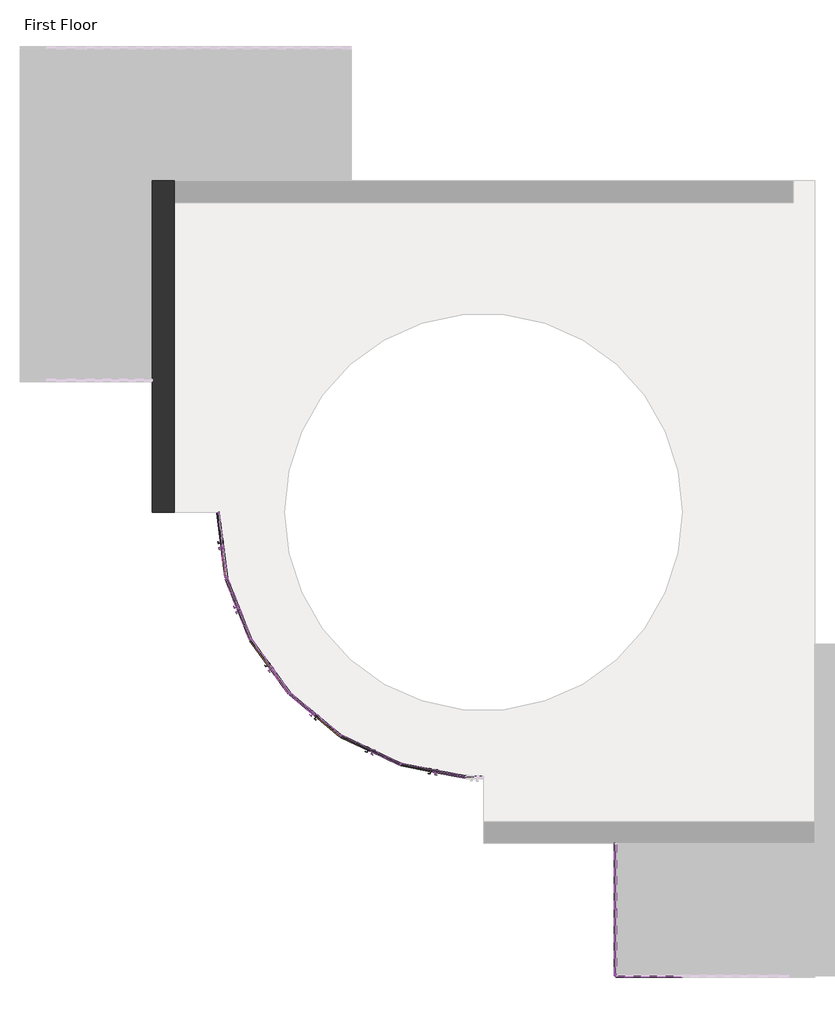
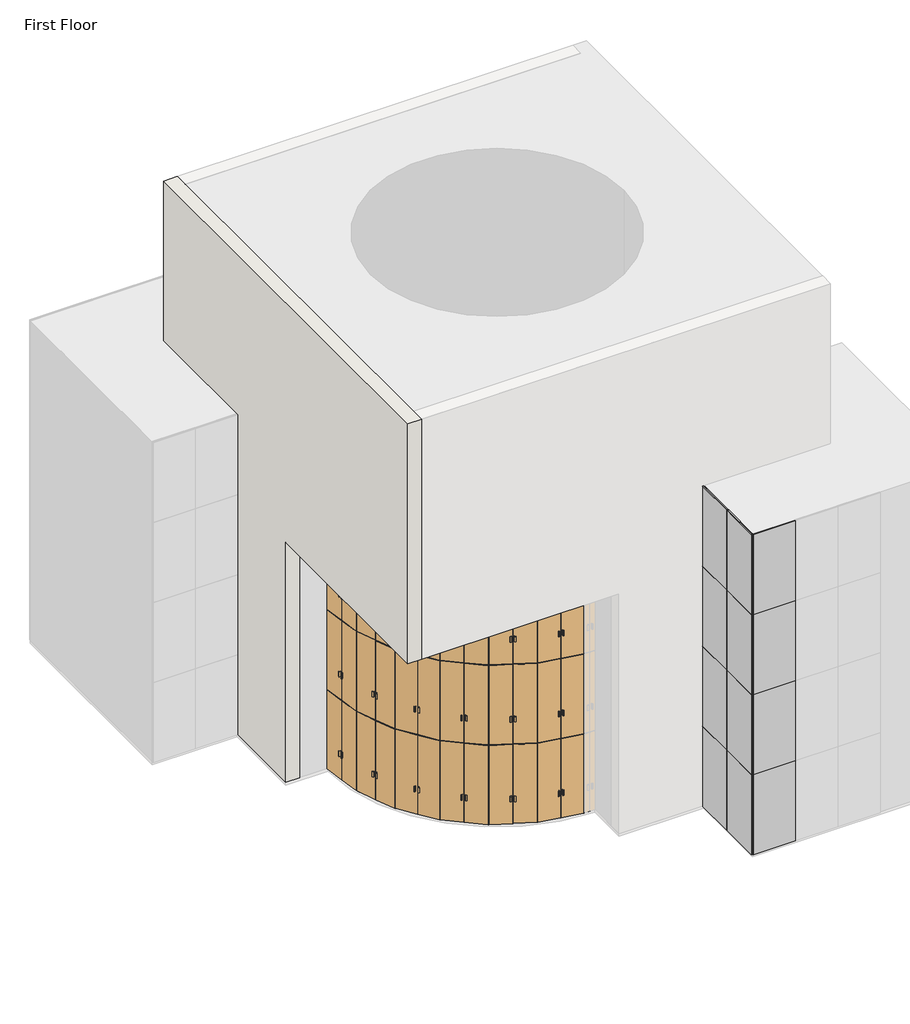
# One storey, part 1 of 4: 68 members, 18 doors, 12 plates, 1 wall.
"""IFC4 building model written with IfcOpenShell, lengths in millimetres."""

from ifc_helpers import new_model, si_unit, origin, place, context, project, spatial, faceted_brep, transform, mapped, element, save
from components import door_curtain_wall_double_glass_door_curtain_wall_double_63a57486, door_curtain_wall_double_glass_door_curtain_wall_double_2d87b983, door_curtain_wall_double_glass_door_curtain_wall_double_8d860489, door_curtain_wall_double_glass_door_curtain_wall_double_2de360d5, member_c999597c, member_cbdb9076, member_6d3da757, member_648f3f05, member_113f7001, member_bc106393, member_7fb477b2, member_7e523723, member_e16e0e7d, member_15743826, member_c4f80b05, system_panel_glazed_c0c5e10a

model = new_model("IFC4")

# Units and contexts
model_context = context("Model", 3, world=origin())
ifc_project = project(units=[si_unit("LENGTHUNIT", "METRE", prefix="MILLI")], contexts=[model_context])

# Site, building, storey
site = spatial("IfcSite", under=ifc_project)
building = spatial("IfcBuilding", under=site)
storey = spatial("IfcBuildingStorey", under=building, Name="First Floor", Elevation=0.0)

# Doors
placement = place(None, origin())
door_curtain_wall_double_glass_door_curtain_wall_double_shape = door_curtain_wall_double_glass_door_curtain_wall_double_63a57486(model_context)
element("IfcDoor", 1, ObjectType="Door-Curtain-Wall-Double-Glass : Door-Curtain-Wall-Double-Glass", at=placement, inside=storey, context=model_context, shape_type="MappedRepresentation", body=[
    mapped(door_curtain_wall_double_glass_door_curtain_wall_double_shape, transform((-5754.6419973, -804.9455849, 25.4), x_axis=(0.1250000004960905, -0.9921567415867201, 0.0), y_axis=(0.9921567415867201, 0.1250000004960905, 0.0), z_axis=(0.0, 0.0, 1.0))),
])
element("IfcDoor", 2, ObjectType="Door-Curtain-Wall-Double-Glass : Door-Curtain-Wall-Double-Glass", at=placement, inside=storey, context=model_context, shape_type="MappedRepresentation", body=[
    mapped(door_curtain_wall_double_glass_door_curtain_wall_double_shape, transform((-5754.6419973, -804.9455849, 6108.7), x_axis=(0.12500000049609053, -0.9921567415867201, 0.0), y_axis=(0.9921567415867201, 0.12500000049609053, 0.0), z_axis=(0.0, 0.0, 1.0))),
])
door_curtain_wall_double_glass_door_curtain_wall_double_2_shape = door_curtain_wall_double_glass_door_curtain_wall_double_2d87b983(model_context)
element("IfcDoor", 3, ObjectType="Door-Curtain-Wall-Double-Glass : Door-Curtain-Wall-Double-Glass", at=placement, inside=storey, context=model_context, shape_type="MappedRepresentation", body=[
    mapped(door_curtain_wall_double_glass_door_curtain_wall_double_2_shape, transform((-5380.3888708, -2263.4408017, 25.4), x_axis=(0.36718750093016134, -0.930146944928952, 0.0), y_axis=(0.930146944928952, 0.36718750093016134, 0.0), z_axis=(0.0, 0.0, 1.0))),
])
element("IfcDoor", 4, ObjectType="Door-Curtain-Wall-Double-Glass : Door-Curtain-Wall-Double-Glass", at=placement, inside=storey, context=model_context, shape_type="MappedRepresentation", body=[
    mapped(door_curtain_wall_double_glass_door_curtain_wall_double_2_shape, transform((-4653.7355492, -3589.4350326, 25.4), x_axis=(0.5864257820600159, -0.8100029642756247, 0.0), y_axis=(0.8100029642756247, 0.5864257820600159, 0.0), z_axis=(0.0, 0.0, 1.0))),
])
element("IfcDoor", 5, ObjectType="Door-Curtain-Wall-Double-Glass : Door-Curtain-Wall-Double-Glass", at=placement, inside=storey, context=model_context, shape_type="MappedRepresentation", body=[
    mapped(door_curtain_wall_double_glass_door_curtain_wall_double_2_shape, transform((-3620.891615, -4693.7534457, 25.4), x_axis=(0.7690124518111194, -0.6392337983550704, 0.0), y_axis=(0.6392337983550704, 0.7690124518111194, 0.0), z_axis=(0.0, 0.0, 1.0))),
])
element("IfcDoor", 6, ObjectType="Door-Curtain-Wall-Double-Glass : Door-Curtain-Wall-Double-Glass", at=placement, inside=storey, context=model_context, shape_type="MappedRepresentation", body=[
    mapped(door_curtain_wall_double_glass_door_curtain_wall_double_2_shape, transform((-2346.4098141, -5507.3761403, 25.4), x_axis=(0.9035358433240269, -0.4285125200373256, 0.0), y_axis=(0.4285125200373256, 0.9035358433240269, 0.0), z_axis=(0.0, 0.0, 1.0))),
])
element("IfcDoor", 7, ObjectType="Door-Curtain-Wall-Double-Glass : Door-Curtain-Wall-Double-Glass", at=placement, inside=storey, context=model_context, shape_type="MappedRepresentation", body=[
    mapped(door_curtain_wall_double_glass_door_curtain_wall_double_2_shape, transform((-909.945259, -5979.451698, 25.4), x_axis=(0.9815882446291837, -0.19100920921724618, 0.0), y_axis=(0.19100920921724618, 0.9815882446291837, 0.0), z_axis=(0.0, 0.0, 1.0))),
])
element("IfcDoor", 8, ObjectType="Door-Curtain-Wall-Double-Glass : Door-Curtain-Wall-Double-Glass", at=placement, inside=storey, context=model_context, shape_type="MappedRepresentation", body=[
    mapped(door_curtain_wall_double_glass_door_curtain_wall_double_2_shape, transform((-5380.3888708, -2263.4408017, 6108.7), x_axis=(0.3671875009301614, -0.930146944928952, 0.0), y_axis=(0.930146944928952, 0.3671875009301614, 0.0), z_axis=(0.0, 0.0, 1.0))),
])
element("IfcDoor", 9, ObjectType="Door-Curtain-Wall-Double-Glass : Door-Curtain-Wall-Double-Glass", at=placement, inside=storey, context=model_context, shape_type="MappedRepresentation", body=[
    mapped(door_curtain_wall_double_glass_door_curtain_wall_double_2_shape, transform((-4653.7355492, -3589.4350326, 6108.7), x_axis=(0.5864257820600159, -0.8100029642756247, 0.0), y_axis=(0.8100029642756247, 0.5864257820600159, 0.0), z_axis=(0.0, 0.0, 1.0))),
])
element("IfcDoor", 10, ObjectType="Door-Curtain-Wall-Double-Glass : Door-Curtain-Wall-Double-Glass", at=placement, inside=storey, context=model_context, shape_type="MappedRepresentation", body=[
    mapped(door_curtain_wall_double_glass_door_curtain_wall_double_2_shape, transform((-3620.891615, -4693.7534457, 6108.7), x_axis=(0.7690124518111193, -0.6392337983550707, 0.0), y_axis=(0.6392337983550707, 0.7690124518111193, 0.0), z_axis=(0.0, 0.0, 1.0))),
])
element("IfcDoor", 11, ObjectType="Door-Curtain-Wall-Double-Glass : Door-Curtain-Wall-Double-Glass", at=placement, inside=storey, context=model_context, shape_type="MappedRepresentation", body=[
    mapped(door_curtain_wall_double_glass_door_curtain_wall_double_2_shape, transform((-2346.4098141, -5507.3761403, 6108.7), x_axis=(0.903535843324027, -0.4285125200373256, 0.0), y_axis=(0.4285125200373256, 0.903535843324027, 0.0), z_axis=(0.0, 0.0, 1.0))),
])
element("IfcDoor", 12, ObjectType="Door-Curtain-Wall-Double-Glass : Door-Curtain-Wall-Double-Glass", at=placement, inside=storey, context=model_context, shape_type="MappedRepresentation", body=[
    mapped(door_curtain_wall_double_glass_door_curtain_wall_double_2_shape, transform((-909.945259, -5979.451698, 6108.7), x_axis=(0.9815882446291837, -0.19100920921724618, 0.0), y_axis=(0.19100920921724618, 0.9815882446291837, 0.0), z_axis=(0.0, 0.0, 1.0))),
])
door_curtain_wall_double_glass_door_curtain_wall_double_3_shape = door_curtain_wall_double_glass_door_curtain_wall_double_8d860489(model_context)
element("IfcDoor", 13, ObjectType="Door-Curtain-Wall-Double-Glass : Door-Curtain-Wall-Double-Glass", at=placement, inside=storey, context=model_context, shape_type="MappedRepresentation", body=[
    mapped(door_curtain_wall_double_glass_door_curtain_wall_double_3_shape, transform((-5754.6419973, -804.9455849, 3060.7), x_axis=(0.1250000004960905, -0.9921567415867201, 0.0), y_axis=(0.9921567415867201, 0.1250000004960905, 0.0), z_axis=(0.0, 0.0, 1.0))),
])
door_curtain_wall_double_glass_door_curtain_wall_double_4_shape = door_curtain_wall_double_glass_door_curtain_wall_double_2de360d5(model_context)
element("IfcDoor", 14, ObjectType="Door-Curtain-Wall-Double-Glass : Door-Curtain-Wall-Double-Glass", at=placement, inside=storey, context=model_context, shape_type="MappedRepresentation", body=[
    mapped(door_curtain_wall_double_glass_door_curtain_wall_double_4_shape, transform((-5380.3888708, -2263.4408017, 3060.7), x_axis=(0.3671875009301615, -0.9301469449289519, 0.0), y_axis=(0.9301469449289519, 0.3671875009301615, 0.0), z_axis=(0.0, 0.0, 1.0))),
])
element("IfcDoor", 15, ObjectType="Door-Curtain-Wall-Double-Glass : Door-Curtain-Wall-Double-Glass", at=placement, inside=storey, context=model_context, shape_type="MappedRepresentation", body=[
    mapped(door_curtain_wall_double_glass_door_curtain_wall_double_4_shape, transform((-4653.7355492, -3589.4350326, 3060.7), x_axis=(0.5864257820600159, -0.8100029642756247, 0.0), y_axis=(0.8100029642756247, 0.5864257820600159, 0.0), z_axis=(0.0, 0.0, 1.0))),
])
element("IfcDoor", 16, ObjectType="Door-Curtain-Wall-Double-Glass : Door-Curtain-Wall-Double-Glass", at=placement, inside=storey, context=model_context, shape_type="MappedRepresentation", body=[
    mapped(door_curtain_wall_double_glass_door_curtain_wall_double_4_shape, transform((-3620.891615, -4693.7534457, 3060.7), x_axis=(0.7690124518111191, -0.6392337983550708, 0.0), y_axis=(0.6392337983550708, 0.7690124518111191, 0.0), z_axis=(0.0, 0.0, 1.0))),
])
element("IfcDoor", 17, ObjectType="Door-Curtain-Wall-Double-Glass : Door-Curtain-Wall-Double-Glass", at=placement, inside=storey, context=model_context, shape_type="MappedRepresentation", body=[
    mapped(door_curtain_wall_double_glass_door_curtain_wall_double_4_shape, transform((-2346.4098141, -5507.3761403, 3060.7), x_axis=(0.9035358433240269, -0.4285125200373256, 0.0), y_axis=(0.4285125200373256, 0.9035358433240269, 0.0), z_axis=(0.0, 0.0, 1.0))),
])
element("IfcDoor", 18, ObjectType="Door-Curtain-Wall-Double-Glass : Door-Curtain-Wall-Double-Glass", at=placement, inside=storey, context=model_context, shape_type="MappedRepresentation", body=[
    mapped(door_curtain_wall_double_glass_door_curtain_wall_double_4_shape, transform((-909.945259, -5979.451698, 3060.7), x_axis=(0.9815882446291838, -0.19100920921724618, 0.0), y_axis=(0.19100920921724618, 0.9815882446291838, 0.0), z_axis=(0.0, 0.0, 1.0))),
])

# Members
member_shape = member_c999597c(model_context)
element("IfcMember", 19, ObjectType="Rectangular Mullion : 1\" Square", at=placement, inside=storey, context=model_context, shape_type="MappedRepresentation", body=[
    mapped(member_shape, transform((-5847.510748, -67.8227308, 0.0), x_axis=(0.0, 0.0, -1.0), y_axis=(-0.99215674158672, -0.1250000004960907, 0.0), z_axis=(-0.12500000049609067, 0.9921567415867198, 0.0))),
])
member_2_shape = member_cbdb9076(model_context)
element("IfcMember", 20, ObjectType="Rectangular Mullion : 1\" Square", at=placement, inside=storey, context=model_context, shape_type="MappedRepresentation", body=[
    mapped(member_2_shape, transform((-5660.1857465, -1554.6688297, 0.0), x_axis=(0.2480391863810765, -0.9687499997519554, 0.0), y_axis=(-0.9687499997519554, -0.2480391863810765, 0.0), z_axis=(0.0, 0.0, -1.0))),
])
element("IfcMember", 21, ObjectType="Rectangular Mullion : 1\" Square", at=placement, inside=storey, context=model_context, shape_type="MappedRepresentation", body=[
    mapped(member_2_shape, transform((-5100.5919951, -2972.2127738, 0.0), x_axis=(0.4805759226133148, -0.8769531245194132, 0.0), y_axis=(-0.8769531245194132, -0.4805759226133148, 0.0), z_axis=(0.0, 0.0, -1.0))),
])
element("IfcMember", 22, ObjectType="Rectangular Mullion : 1\" Square", at=placement, inside=storey, context=model_context, shape_type="MappedRepresentation", body=[
    mapped(member_2_shape, transform((-4206.8791032, -4206.6572913, 0.0), x_axis=(0.6830766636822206, -0.7303466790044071, 0.0), y_axis=(-0.7303466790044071, -0.6830766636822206, 0.0), z_axis=(0.0, 0.0, -1.0))),
])
element("IfcMember", 23, ObjectType="Rectangular Mullion : 1\" Square", at=placement, inside=storey, context=model_context, shape_type="MappedRepresentation", body=[
    mapped(member_2_shape, transform((-3034.9041267, -5180.8496, 0.0), x_axis=(0.8428851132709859, -0.5380935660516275, 0.0), y_axis=(-0.5380935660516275, -0.8428851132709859, 0.0), z_axis=(0.0, 0.0, -1.0))),
])
element("IfcMember", 24, ObjectType="Rectangular Mullion : 1\" Square", at=placement, inside=storey, context=model_context, shape_type="MappedRepresentation", body=[
    mapped(member_2_shape, transform((-1657.9155014, -5833.9026806, 0.0), x_axis=(0.9500132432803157, -0.31220960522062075, 0.0), y_axis=(-0.31220960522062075, -0.9500132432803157, 0.0), z_axis=(0.0, 0.0, -1.0))),
])
element("IfcMember", 25, ObjectType="Rectangular Mullion : 1\" Square", at=placement, inside=storey, context=model_context, shape_type="MappedRepresentation", body=[
    mapped(member_2_shape, transform((-161.9750166, -6125.0007154, 0.0), x_axis=(0.9977655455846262, -0.06681254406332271, 0.0), y_axis=(-0.06681254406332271, -0.9977655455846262, 0.0), z_axis=(0.0, 0.0, -1.0))),
])
element("IfcMember", 26, ObjectType="Rectangular Mullion : 1\" Square", at=placement, inside=storey, context=model_context, shape_type="MappedRepresentation", body=[
    mapped(member_2_shape, transform((3293.314252, -9186.6219498, 0.0), x_axis=(0.0, -1.0, 0.0), y_axis=(-1.0, 0.0, 0.0), z_axis=(0.0, 0.0, -1.0))),
])
member_3_shape = member_6d3da757(model_context)
element("IfcMember", 27, ObjectType="Rectangular Mullion : 1\" Square", at=placement, inside=storey, context=model_context, shape_type="MappedRepresentation", body=[
    mapped(member_3_shape, transform((-5661.7732465, -1542.0684391, 3048.0), x_axis=(0.0, 0.0, 1.0), y_axis=(-0.9921567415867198, -0.125000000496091, 0.0), z_axis=(0.125000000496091, -0.9921567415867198, 0.0))),
])
element("IfcMember", 28, ObjectType="Rectangular Mullion : 1\" Square", at=placement, inside=storey, context=model_context, shape_type="MappedRepresentation", body=[
    mapped(member_3_shape, transform((-5661.7732465, -1542.0684391, 6096.0), x_axis=(0.0, 0.0, 1.0), y_axis=(-0.99215674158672, -0.1250000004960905, 0.0), z_axis=(0.1250000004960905, -0.99215674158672, 0.0))),
])
member_4_shape = member_648f3f05(model_context)
element("IfcMember", 29, ObjectType="Rectangular Mullion : 1\" Square", at=placement, inside=storey, context=model_context, shape_type="MappedRepresentation", body=[
    mapped(member_4_shape, transform((-5105.2552764, -2960.3999076, 3048.0), x_axis=(0.0, 0.0, 1.0), y_axis=(-0.9301469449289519, -0.36718750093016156, 0.0), z_axis=(0.36718750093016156, -0.9301469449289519, 0.0))),
])
element("IfcMember", 30, ObjectType="Rectangular Mullion : 1\" Square", at=placement, inside=storey, context=model_context, shape_type="MappedRepresentation", body=[
    mapped(member_4_shape, transform((-4214.3267107, -4196.3702537, 3048.0), x_axis=(0.0, 0.0, 1.0), y_axis=(-0.8100029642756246, -0.586425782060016, 0.0), z_axis=(0.586425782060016, -0.8100029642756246, 0.0))),
])
element("IfcMember", 31, ObjectType="Rectangular Mullion : 1\" Square", at=placement, inside=storey, context=model_context, shape_type="MappedRepresentation", body=[
    mapped(member_4_shape, transform((-3044.6705848, -5172.7313308, 3048.0), x_axis=(0.0, 0.0, 1.0), y_axis=(-0.6392337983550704, -0.7690124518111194, 0.0), z_axis=(0.7690124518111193, -0.6392337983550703, 0.0))),
])
element("IfcMember", 32, ObjectType="Rectangular Mullion : 1\" Square", at=placement, inside=storey, context=model_context, shape_type="MappedRepresentation", body=[
    mapped(member_4_shape, transform((-1669.3904067, -5828.4605716, 3048.0), x_axis=(0.0, 0.0, 1.0), y_axis=(-0.4285125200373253, -0.9035358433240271, 0.0), z_axis=(0.9035358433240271, -0.4285125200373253, 0.0))),
])
element("IfcMember", 33, ObjectType="Rectangular Mullion : 1\" Square", at=placement, inside=storey, context=model_context, shape_type="MappedRepresentation", body=[
    mapped(member_4_shape, transform((-174.4411873, -6122.5748985, 3048.0), x_axis=(0.0, 0.0, 1.0), y_axis=(-0.1910092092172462, -0.9815882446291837, 0.0), z_axis=(0.9815882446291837, -0.1910092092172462, 0.0))),
])
element("IfcMember", 34, ObjectType="Rectangular Mullion : 1\" Square", at=placement, inside=storey, context=model_context, shape_type="MappedRepresentation", body=[
    mapped(member_4_shape, transform((-5105.2552764, -2960.3999076, 6096.0), x_axis=(0.0, 0.0, 1.0), y_axis=(-0.9301469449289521, -0.36718750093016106, 0.0), z_axis=(0.36718750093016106, -0.9301469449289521, 0.0))),
])
element("IfcMember", 35, ObjectType="Rectangular Mullion : 1\" Square", at=placement, inside=storey, context=model_context, shape_type="MappedRepresentation", body=[
    mapped(member_4_shape, transform((-4214.3267107, -4196.3702537, 6096.0), x_axis=(0.0, 0.0, 1.0), y_axis=(-0.8100029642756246, -0.586425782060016, 0.0), z_axis=(0.586425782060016, -0.8100029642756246, 0.0))),
])
element("IfcMember", 36, ObjectType="Rectangular Mullion : 1\" Square", at=placement, inside=storey, context=model_context, shape_type="MappedRepresentation", body=[
    mapped(member_4_shape, transform((-3044.6705848, -5172.7313308, 6096.0), x_axis=(0.0, 0.0, 1.0), y_axis=(-0.639233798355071, -0.769012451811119, 0.0), z_axis=(0.7690124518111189, -0.6392337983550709, 0.0))),
])
element("IfcMember", 37, ObjectType="Rectangular Mullion : 1\" Square", at=placement, inside=storey, context=model_context, shape_type="MappedRepresentation", body=[
    mapped(member_4_shape, transform((-1669.3904067, -5828.4605716, 6096.0), x_axis=(0.0, 0.0, 1.0), y_axis=(-0.4285125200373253, -0.9035358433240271, 0.0), z_axis=(0.9035358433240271, -0.4285125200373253, 0.0))),
])
element("IfcMember", 38, ObjectType="Rectangular Mullion : 1\" Square", at=placement, inside=storey, context=model_context, shape_type="MappedRepresentation", body=[
    mapped(member_4_shape, transform((-174.4411873, -6122.5748985, 6096.0), x_axis=(0.0, 0.0, 1.0), y_axis=(-0.19100920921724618, -0.9815882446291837, 0.0), z_axis=(0.9815882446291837, -0.19100920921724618, 0.0))),
])
member_5_shape = member_113f7001(model_context)
element("IfcMember", 39, ObjectType="Rectangular Mullion : 1\" Square", at=placement, inside=storey, context=model_context, shape_type="MappedRepresentation", body=[
    mapped(member_5_shape, transform((-5655.5224652, -1566.4816959, 0.0), x_axis=(0.0, 0.0, -1.0), y_axis=(-0.930146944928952, -0.3671875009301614, 0.0), z_axis=(-0.3671875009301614, 0.930146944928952, 0.0))),
])
element("IfcMember", 40, ObjectType="Rectangular Mullion : 1\" Square", at=placement, inside=storey, context=model_context, shape_type="MappedRepresentation", body=[
    mapped(member_5_shape, transform((-5093.1443877, -2982.4998114, 0.0), x_axis=(0.0, 0.0, -1.0), y_axis=(-0.8100029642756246, -0.5864257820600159, 0.0), z_axis=(-0.5864257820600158, 0.8100029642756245, 0.0))),
])
element("IfcMember", 41, ObjectType="Rectangular Mullion : 1\" Square", at=placement, inside=storey, context=model_context, shape_type="MappedRepresentation", body=[
    mapped(member_5_shape, transform((-4197.1126451, -4214.7755606, 0.0), x_axis=(0.0, 0.0, -1.0), y_axis=(-0.6392337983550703, -0.7690124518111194, 0.0), z_axis=(-0.7690124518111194, 0.6392337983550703, 0.0))),
])
element("IfcMember", 42, ObjectType="Rectangular Mullion : 1\" Square", at=placement, inside=storey, context=model_context, shape_type="MappedRepresentation", body=[
    mapped(member_5_shape, transform((-3023.4292215, -5186.291709, 0.0), x_axis=(0.0, 0.0, -1.0), y_axis=(-0.42851252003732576, -0.9035358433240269, 0.0), z_axis=(-0.9035358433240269, 0.42851252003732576, 0.0))),
])
element("IfcMember", 43, ObjectType="Rectangular Mullion : 1\" Square", at=placement, inside=storey, context=model_context, shape_type="MappedRepresentation", body=[
    mapped(member_5_shape, transform((-1645.4493307, -5836.3284975, 0.0), x_axis=(0.0, 0.0, -1.0), y_axis=(-0.1910092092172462, -0.9815882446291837, 0.0), z_axis=(-0.9815882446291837, 0.1910092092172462, 0.0))),
])
member_6_shape = member_bc106393(model_context)
element("IfcMember", 44, ObjectType="Rectangular Mullion : 1\" Square", at=placement, inside=storey, context=model_context, shape_type="MappedRepresentation", body=[
    mapped(member_6_shape, transform((-149.282113, -6125.4252123, 0.0), x_axis=(0.0, 0.0, -1.0), y_axis=(-0.03342494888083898, -0.9994412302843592, 0.0), z_axis=(-0.999441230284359, 0.033424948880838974, 0.0))),
])
member_7_shape = member_7fb477b2(model_context)
element("IfcMember", 45, ObjectType="Rectangular Mullion : 1\" Square", at=placement, inside=storey, context=model_context, shape_type="MappedRepresentation", body=[
    mapped(member_7_shape, transform((-5661.7732465, -1542.0684391, 9144.0), x_axis=(0.0, 0.0, 1.0), y_axis=(-0.9921567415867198, -0.125000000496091, 0.0), z_axis=(0.125000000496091, -0.9921567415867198, 0.0))),
])
element("IfcMember", 46, ObjectType="Rectangular Mullion : 1\" Square", at=placement, inside=storey, context=model_context, shape_type="MappedRepresentation", body=[
    mapped(member_5_shape, transform((-5105.2552764, -2960.3999076, 9144.0), x_axis=(0.0, 0.0, 1.0), y_axis=(-0.930146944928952, -0.3671875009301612, 0.0), z_axis=(0.3671875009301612, -0.930146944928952, 0.0))),
])
element("IfcMember", 47, ObjectType="Rectangular Mullion : 1\" Square", at=placement, inside=storey, context=model_context, shape_type="MappedRepresentation", body=[
    mapped(member_5_shape, transform((-4214.3267107, -4196.3702537, 9144.0), x_axis=(0.0, 0.0, 1.0), y_axis=(-0.8100029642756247, -0.5864257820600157, 0.0), z_axis=(0.5864257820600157, -0.8100029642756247, 0.0))),
])
element("IfcMember", 48, ObjectType="Rectangular Mullion : 1\" Square", at=placement, inside=storey, context=model_context, shape_type="MappedRepresentation", body=[
    mapped(member_5_shape, transform((-3044.6705848, -5172.7313308, 9144.0), x_axis=(0.0, 0.0, 1.0), y_axis=(-0.6392337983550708, -0.7690124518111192, 0.0), z_axis=(0.7690124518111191, -0.6392337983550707, 0.0))),
])
element("IfcMember", 49, ObjectType="Rectangular Mullion : 1\" Square", at=placement, inside=storey, context=model_context, shape_type="MappedRepresentation", body=[
    mapped(member_5_shape, transform((-1669.3904067, -5828.4605716, 9144.0), x_axis=(0.0, 0.0, 1.0), y_axis=(-0.4285125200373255, -0.903535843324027, 0.0), z_axis=(0.903535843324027, -0.4285125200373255, 0.0))),
])
element("IfcMember", 50, ObjectType="Rectangular Mullion : 1\" Square", at=placement, inside=storey, context=model_context, shape_type="MappedRepresentation", body=[
    mapped(member_5_shape, transform((-174.4411873, -6122.5748985, 9144.0), x_axis=(0.0, 0.0, 1.0), y_axis=(-0.19100920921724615, -0.9815882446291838, 0.0), z_axis=(0.9815882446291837, -0.19100920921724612, 0.0))),
])
element("IfcMember", 51, ObjectType="Rectangular Mullion : 1\" Square", at=placement, inside=storey, context=model_context, shape_type="MappedRepresentation", body=[
    mapped(member_2_shape, transform((-5660.1857465, -1554.6688297, 3048.0), x_axis=(0.24803918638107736, -0.9687499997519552, 0.0), y_axis=(-0.9687499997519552, -0.24803918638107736, 0.0), z_axis=(0.0, 0.0, -1.0))),
])
element("IfcMember", 52, ObjectType="Rectangular Mullion : 1\" Square", at=placement, inside=storey, context=model_context, shape_type="MappedRepresentation", body=[
    mapped(member_2_shape, transform((-5100.5919951, -2972.2127738, 3048.0), x_axis=(0.4805759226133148, -0.8769531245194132, 0.0), y_axis=(-0.8769531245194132, -0.4805759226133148, 0.0), z_axis=(0.0, 0.0, -1.0))),
])
element("IfcMember", 53, ObjectType="Rectangular Mullion : 1\" Square", at=placement, inside=storey, context=model_context, shape_type="MappedRepresentation", body=[
    mapped(member_2_shape, transform((-4206.8791032, -4206.6572913, 3048.0), x_axis=(0.6830766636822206, -0.7303466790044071, 0.0), y_axis=(-0.7303466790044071, -0.6830766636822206, 0.0), z_axis=(0.0, 0.0, -1.0))),
])
element("IfcMember", 54, ObjectType="Rectangular Mullion : 1\" Square", at=placement, inside=storey, context=model_context, shape_type="MappedRepresentation", body=[
    mapped(member_2_shape, transform((-3034.9041267, -5180.8496, 3048.0), x_axis=(0.8428851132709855, -0.5380935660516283, 0.0), y_axis=(-0.5380935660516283, -0.8428851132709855, 0.0), z_axis=(0.0, 0.0, -1.0))),
])
element("IfcMember", 55, ObjectType="Rectangular Mullion : 1\" Square", at=placement, inside=storey, context=model_context, shape_type="MappedRepresentation", body=[
    mapped(member_2_shape, transform((-1657.9155014, -5833.9026806, 3048.0), x_axis=(0.9500132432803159, -0.3122096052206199, 0.0), y_axis=(-0.3122096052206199, -0.9500132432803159, 0.0), z_axis=(0.0, 0.0, -1.0))),
])
element("IfcMember", 56, ObjectType="Rectangular Mullion : 1\" Square", at=placement, inside=storey, context=model_context, shape_type="MappedRepresentation", body=[
    mapped(member_2_shape, transform((-161.9750166, -6125.0007154, 3048.0), x_axis=(0.9977655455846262, -0.06681254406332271, 0.0), y_axis=(-0.06681254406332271, -0.9977655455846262, 0.0), z_axis=(0.0, 0.0, -1.0))),
])
element("IfcMember", 57, ObjectType="Rectangular Mullion : 1\" Square", at=placement, inside=storey, context=model_context, shape_type="MappedRepresentation", body=[
    mapped(member_2_shape, transform((3293.314252, -9186.6219498, 3048.0), x_axis=(0.0, -1.0, 0.0), y_axis=(-1.0, 0.0, 0.0), z_axis=(0.0, 0.0, -1.0))),
])
element("IfcMember", 58, ObjectType="Rectangular Mullion : 1\" Square", at=placement, inside=storey, context=model_context, shape_type="MappedRepresentation", body=[
    mapped(member_2_shape, transform((3293.314252, -9186.6219498, 6096.0), x_axis=(0.0, -1.0, 0.0), y_axis=(-1.0, 0.0, 0.0), z_axis=(0.0, 0.0, -1.0))),
])
element("IfcMember", 59, ObjectType="Rectangular Mullion : 1\" Square", at=placement, inside=storey, context=model_context, shape_type="MappedRepresentation", body=[
    mapped(member_2_shape, transform((-5660.1857465, -1554.6688297, 6096.0), x_axis=(0.24803918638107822, -0.968749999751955, 0.0), y_axis=(-0.968749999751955, -0.24803918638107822, 0.0), z_axis=(0.0, 0.0, -1.0))),
])
element("IfcMember", 60, ObjectType="Rectangular Mullion : 1\" Square", at=placement, inside=storey, context=model_context, shape_type="MappedRepresentation", body=[
    mapped(member_2_shape, transform((-5100.5919951, -2972.2127738, 6096.0), x_axis=(0.480575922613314, -0.8769531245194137, 0.0), y_axis=(-0.8769531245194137, -0.480575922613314, 0.0), z_axis=(0.0, 0.0, -1.0))),
])
element("IfcMember", 61, ObjectType="Rectangular Mullion : 1\" Square", at=placement, inside=storey, context=model_context, shape_type="MappedRepresentation", body=[
    mapped(member_2_shape, transform((-4206.8791032, -4206.6572913, 6096.0), x_axis=(0.6830766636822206, -0.7303466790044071, 0.0), y_axis=(-0.7303466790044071, -0.6830766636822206, 0.0), z_axis=(0.0, 0.0, -1.0))),
])
element("IfcMember", 62, ObjectType="Rectangular Mullion : 1\" Square", at=placement, inside=storey, context=model_context, shape_type="MappedRepresentation", body=[
    mapped(member_2_shape, transform((-3034.9041267, -5180.8496, 6096.0), x_axis=(0.8428851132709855, -0.5380935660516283, 0.0), y_axis=(-0.5380935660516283, -0.8428851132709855, 0.0), z_axis=(0.0, 0.0, -1.0))),
])
element("IfcMember", 63, ObjectType="Rectangular Mullion : 1\" Square", at=placement, inside=storey, context=model_context, shape_type="MappedRepresentation", body=[
    mapped(member_2_shape, transform((-1657.9155014, -5833.9026806, 6096.0), x_axis=(0.9500132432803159, -0.3122096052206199, 0.0), y_axis=(-0.3122096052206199, -0.9500132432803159, 0.0), z_axis=(0.0, 0.0, -1.0))),
])
element("IfcMember", 64, ObjectType="Rectangular Mullion : 1\" Square", at=placement, inside=storey, context=model_context, shape_type="MappedRepresentation", body=[
    mapped(member_2_shape, transform((-161.9750166, -6125.0007154, 6096.0), x_axis=(0.9977655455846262, -0.06681254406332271, 0.0), y_axis=(-0.06681254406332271, -0.9977655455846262, 0.0), z_axis=(0.0, 0.0, -1.0))),
])
element("IfcMember", 65, ObjectType="Rectangular Mullion : 1\" Square", at=placement, inside=storey, context=model_context, shape_type="MappedRepresentation", body=[
    mapped(member_2_shape, transform((3293.314252, -9186.6219498, 9144.0), x_axis=(0.0, -1.0, 0.0), y_axis=(-1.0, 0.0, 0.0), z_axis=(0.0, 0.0, -1.0))),
])
member_8_shape = member_7e523723(model_context)
element("IfcMember", 66, ObjectType="Rectangular Mullion : 1\" Square", at=placement, inside=storey, context=model_context, shape_type="MappedRepresentation", body=[
    mapped(member_8_shape, transform((3293.314252, -10710.6219495, 0.0), x_axis=(0.0, -1.0, 0.0), y_axis=(-1.0, 0.0, 0.0), z_axis=(0.0, 0.0, -1.0))),
])
element("IfcMember", 67, ObjectType="Rectangular Mullion : 1\" Square", at=placement, inside=storey, context=model_context, shape_type="MappedRepresentation", body=[
    mapped(member_8_shape, transform((-5850.685748, -42.6219495, 9144.0), x_axis=(-0.12500000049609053, 0.9921567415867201, 0.0), y_axis=(-0.9921567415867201, -0.12500000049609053, 0.0), z_axis=(0.0, 0.0, 1.0))),
])
element("IfcMember", 68, ObjectType="Rectangular Mullion : 1\" Square", at=placement, inside=storey, context=model_context, shape_type="MappedRepresentation", body=[
    mapped(member_8_shape, transform((3293.314252, -10710.6219495, 12192.0), x_axis=(-1.0, 0.0, 0.0), y_axis=(0.0, -1.0, 0.0), z_axis=(0.0, 0.0, 1.0))),
])
element("IfcMember", 69, ObjectType="Rectangular Mullion : 1\" Square", at=placement, inside=storey, context=model_context, shape_type="MappedRepresentation", body=[
    mapped(member_8_shape, transform((-5850.685748, -42.6219495, 3048.0), x_axis=(-0.1250000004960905, 0.9921567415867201, 0.0), y_axis=(-0.9921567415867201, -0.1250000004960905, 0.0), z_axis=(0.0, 0.0, 1.0))),
])
element("IfcMember", 70, ObjectType="Rectangular Mullion : 1\" Square", at=placement, inside=storey, context=model_context, shape_type="MappedRepresentation", body=[
    mapped(member_8_shape, transform((3293.314252, -10710.6219495, 3048.0), x_axis=(-1.0, 0.0, 0.0), y_axis=(0.0, -1.0, 0.0), z_axis=(0.0, 0.0, 1.0))),
])
element("IfcMember", 71, ObjectType="Rectangular Mullion : 1\" Square", at=placement, inside=storey, context=model_context, shape_type="MappedRepresentation", body=[
    mapped(member_8_shape, transform((-5850.685748, -42.6219495, 6096.0), x_axis=(-0.1250000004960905, 0.9921567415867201, 0.0), y_axis=(-0.9921567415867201, -0.1250000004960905, 0.0), z_axis=(0.0, 0.0, 1.0))),
])
element("IfcMember", 72, ObjectType="Rectangular Mullion : 1\" Square", at=placement, inside=storey, context=model_context, shape_type="MappedRepresentation", body=[
    mapped(member_8_shape, transform((3293.314252, -10710.6219495, 6096.0), x_axis=(-1.0, 0.0, 0.0), y_axis=(0.0, -1.0, 0.0), z_axis=(0.0, 0.0, 1.0))),
])
element("IfcMember", 73, ObjectType="Rectangular Mullion : 1\" Square", at=placement, inside=storey, context=model_context, shape_type="MappedRepresentation", body=[
    mapped(member_8_shape, transform((3293.314252, -10710.6219495, 9144.0), x_axis=(-1.0, 0.0, 0.0), y_axis=(0.0, -1.0, 0.0), z_axis=(0.0, 0.0, 1.0))),
])
element("IfcMember", 74, ObjectType="Rectangular Mullion : 1\" Square", at=placement, inside=storey, context=model_context, shape_type="MappedRepresentation", body=[
    mapped(member_8_shape, transform((3293.314252, -10710.6219495, 3048.0), x_axis=(0.0, -1.0, 0.0), y_axis=(-1.0, 0.0, 0.0), z_axis=(0.0, 0.0, -1.0))),
])
element("IfcMember", 75, ObjectType="Rectangular Mullion : 1\" Square", at=placement, inside=storey, context=model_context, shape_type="MappedRepresentation", body=[
    mapped(member_8_shape, transform((3293.314252, -10710.6219495, 6096.0), x_axis=(0.0, -1.0, 0.0), y_axis=(-1.0, 0.0, 0.0), z_axis=(0.0, 0.0, -1.0))),
])
element("IfcMember", 76, ObjectType="Rectangular Mullion : 1\" Square", at=placement, inside=storey, context=model_context, shape_type="MappedRepresentation", body=[
    mapped(member_8_shape, transform((3293.314252, -10710.6219495, 9144.0), x_axis=(0.0, -1.0, 0.0), y_axis=(-1.0, 0.0, 0.0), z_axis=(0.0, 0.0, -1.0))),
])
member_9_shape = member_e16e0e7d(model_context)
element("IfcMember", 77, ObjectType="Rectangular Mullion : 1\" Square", at=placement, inside=storey, context=model_context, shape_type="MappedRepresentation", body=[
    mapped(member_9_shape, transform((3293.314252, -10685.2219495, 12192.0), x_axis=(0.0, 0.0, 1.0), y_axis=(-1.0, 0.0, 0.0), z_axis=(0.0, -1.0, 0.0))),
])
element("IfcMember", 78, ObjectType="Rectangular Mullion : 1\" Square", at=placement, inside=storey, context=model_context, shape_type="MappedRepresentation", body=[
    mapped(member_9_shape, transform((3293.314252, -9173.9219498, 12192.0), x_axis=(0.0, 0.0, 1.0), y_axis=(-1.0, 0.0, 0.0), z_axis=(0.0, -1.0, 0.0))),
])
member_10_shape = member_15743826(model_context)
element("IfcMember", 79, ObjectType="Rectangular Mullion : 1\" Square", at=placement, inside=storey, context=model_context, shape_type="MappedRepresentation", body=[
    mapped(member_10_shape, transform((3318.714252, -10710.6219495, 0.0), x_axis=(0.0, 0.0, -1.0), y_axis=(0.0, -1.0, 0.0), z_axis=(-1.0, 0.0, 0.0))),
])
element("IfcMember", 80, ObjectType="Rectangular Mullion : 1\" Square", at=placement, inside=storey, context=model_context, shape_type="MappedRepresentation", body=[
    mapped(member_10_shape, transform((3293.314252, -9199.3219498, 0.0), x_axis=(0.0, 0.0, -1.0), y_axis=(-1.0, 0.0, 0.0), z_axis=(0.0, 1.0, 0.0))),
])
member_11_shape = member_c4f80b05(model_context)
element("IfcMember", 81, ObjectType="Rectangular Mullion : 1\" Square", at=placement, inside=storey, context=model_context, shape_type="MappedRepresentation", body=[
    mapped(member_11_shape, transform((3293.314252, -9173.9219498, 3048.0), x_axis=(0.0, 0.0, 1.0), y_axis=(-1.0, 0.0, 0.0), z_axis=(0.0, -1.0, 0.0))),
])
element("IfcMember", 82, ObjectType="Rectangular Mullion : 1\" Square", at=placement, inside=storey, context=model_context, shape_type="MappedRepresentation", body=[
    mapped(member_11_shape, transform((3293.314252, -10685.2219495, 3048.0), x_axis=(0.0, 0.0, 1.0), y_axis=(-1.0, 0.0, 0.0), z_axis=(0.0, -1.0, 0.0))),
])
element("IfcMember", 83, ObjectType="Rectangular Mullion : 1\" Square", at=placement, inside=storey, context=model_context, shape_type="MappedRepresentation", body=[
    mapped(member_11_shape, transform((3293.314252, -9173.9219498, 6096.0), x_axis=(0.0, 0.0, 1.0), y_axis=(-1.0, 0.0, 0.0), z_axis=(0.0, -1.0, 0.0))),
])
element("IfcMember", 84, ObjectType="Rectangular Mullion : 1\" Square", at=placement, inside=storey, context=model_context, shape_type="MappedRepresentation", body=[
    mapped(member_11_shape, transform((3293.314252, -10685.2219495, 6096.0), x_axis=(0.0, 0.0, 1.0), y_axis=(-1.0, 0.0, 0.0), z_axis=(0.0, -1.0, 0.0))),
])
element("IfcMember", 85, ObjectType="Rectangular Mullion : 1\" Square", at=placement, inside=storey, context=model_context, shape_type="MappedRepresentation", body=[
    mapped(member_11_shape, transform((3293.314252, -9173.9219498, 9144.0), x_axis=(0.0, 0.0, 1.0), y_axis=(-1.0, 0.0, 0.0), z_axis=(0.0, -1.0, 0.0))),
])
element("IfcMember", 86, ObjectType="Rectangular Mullion : 1\" Square", at=placement, inside=storey, context=model_context, shape_type="MappedRepresentation", body=[
    mapped(member_11_shape, transform((3293.314252, -10685.2219495, 9144.0), x_axis=(0.0, 0.0, 1.0), y_axis=(-1.0, 0.0, 0.0), z_axis=(0.0, -1.0, 0.0))),
])

# Plates
system_panel_glazed_shape = system_panel_glazed_c0c5e10a(model_context)
element("IfcPlate", 87, ObjectType="System Panel : Glazed", at=placement, inside=storey, context=model_context, shape_type="MappedRepresentation", body=[
    mapped(system_panel_glazed_shape, transform((4055.3142521, -10710.6219495, 0.0), x_axis=(1.0, 0.0, 0.0), y_axis=(0.0, 1.0, 0.0), z_axis=(0.0, 0.0, 1.0))),
])
element("IfcPlate", 88, ObjectType="System Panel : Glazed", at=placement, inside=storey, context=model_context, shape_type="MappedRepresentation", body=[
    mapped(system_panel_glazed_shape, transform((4055.3142521, -10710.6219495, 3048.0), x_axis=(1.0, 0.0, 0.0), y_axis=(0.0, 1.0, 0.0), z_axis=(0.0, 0.0, 1.0))),
])
element("IfcPlate", 89, ObjectType="System Panel : Glazed", at=placement, inside=storey, context=model_context, shape_type="MappedRepresentation", body=[
    mapped(system_panel_glazed_shape, transform((4055.3142521, -10710.6219495, 6096.0), x_axis=(1.0, 0.0, 0.0), y_axis=(0.0, 1.0, 0.0), z_axis=(0.0, 0.0, 1.0))),
])
element("IfcPlate", 90, ObjectType="System Panel : Glazed", at=placement, inside=storey, context=model_context, shape_type="MappedRepresentation", body=[
    mapped(system_panel_glazed_shape, transform((4055.3142521, -10710.6219495, 9144.0), x_axis=(1.0, 0.0, 0.0), y_axis=(0.0, 1.0, 0.0), z_axis=(0.0, 0.0, 1.0))),
])
element("IfcPlate", 91, ObjectType="System Panel : Glazed", at=placement, inside=storey, context=model_context, shape_type="MappedRepresentation", body=[
    mapped(system_panel_glazed_shape, transform((3293.314252, -8424.6219497, 0.0), x_axis=(0.0, -1.0, 0.0), y_axis=(1.0, 0.0, 0.0), z_axis=(0.0, 0.0, 1.0))),
])
element("IfcPlate", 92, ObjectType="System Panel : Glazed", at=placement, inside=storey, context=model_context, shape_type="MappedRepresentation", body=[
    mapped(system_panel_glazed_shape, transform((3293.314252, -9948.6219497, 0.0), x_axis=(0.0, -1.0, 0.0), y_axis=(1.0, 0.0, 0.0), z_axis=(0.0, 0.0, 1.0))),
])
element("IfcPlate", 93, ObjectType="System Panel : Glazed", at=placement, inside=storey, context=model_context, shape_type="MappedRepresentation", body=[
    mapped(system_panel_glazed_shape, transform((3293.314252, -8424.6219497, 3048.0), x_axis=(0.0, -1.0, 0.0), y_axis=(1.0, 0.0, 0.0), z_axis=(0.0, 0.0, 1.0))),
])
element("IfcPlate", 94, ObjectType="System Panel : Glazed", at=placement, inside=storey, context=model_context, shape_type="MappedRepresentation", body=[
    mapped(system_panel_glazed_shape, transform((3293.314252, -9948.6219497, 3048.0), x_axis=(0.0, -1.0, 0.0), y_axis=(1.0, 0.0, 0.0), z_axis=(0.0, 0.0, 1.0))),
])
element("IfcPlate", 95, ObjectType="System Panel : Glazed", at=placement, inside=storey, context=model_context, shape_type="MappedRepresentation", body=[
    mapped(system_panel_glazed_shape, transform((3293.314252, -8424.6219497, 6096.0), x_axis=(0.0, -1.0, 0.0), y_axis=(1.0, 0.0, 0.0), z_axis=(0.0, 0.0, 1.0))),
])
element("IfcPlate", 96, ObjectType="System Panel : Glazed", at=placement, inside=storey, context=model_context, shape_type="MappedRepresentation", body=[
    mapped(system_panel_glazed_shape, transform((3293.314252, -9948.6219497, 6096.0), x_axis=(0.0, -1.0, 0.0), y_axis=(1.0, 0.0, 0.0), z_axis=(0.0, 0.0, 1.0))),
])
element("IfcPlate", 97, ObjectType="System Panel : Glazed", at=placement, inside=storey, context=model_context, shape_type="MappedRepresentation", body=[
    mapped(system_panel_glazed_shape, transform((3293.314252, -8424.6219497, 9144.0), x_axis=(0.0, -1.0, 0.0), y_axis=(1.0, 0.0, 0.0), z_axis=(0.0, 0.0, 1.0))),
])
element("IfcPlate", 98, ObjectType="System Panel : Glazed", at=placement, inside=storey, context=model_context, shape_type="MappedRepresentation", body=[
    mapped(system_panel_glazed_shape, transform((3293.314252, -9948.6219497, 9144.0), x_axis=(0.0, -1.0, 0.0), y_axis=(1.0, 0.0, 0.0), z_axis=(0.0, 0.0, 1.0))),
])

# Wall
element("IfcWall", 99, ObjectType="Exterior - Brick on CMU", at=placement, inside=storey, context=model_context, shape_type="Brep", body=[
    faceted_brep([(-7374.685748, 7577.3780505, 0.0), (-7374.685748, -42.6219495, 0.0), (-7374.685748, -42.6219495, 9144.0), (-7374.685748, -7662.6219495, 9144.0), (-7374.685748, -7662.6219495, 18288.0), (-7374.685748, 7577.3780505, 18288.0), (-6879.385748, 7577.3780505, 0.0), (-6879.385748, 7577.3780505, 18288.0), (-6879.385748, 7082.0780505, 18288.0), (-6879.385748, -7167.3219495, 18288.0), (-6879.385748, -7662.6219495, 18288.0), (-6879.385748, -7662.6219495, 9144.0), (-6879.385748, -7167.3219495, 9144.0), (-6879.385748, -42.6219495, 9144.0), (-6879.385748, -42.6219495, 0.0), (-6879.385748, 7082.0780505, 0.0)], [[[0, 1, 2, 3, 4, 5]], [[6, 7, 8, 9, 10, 11, 12, 13, 14, 15]], [[1, 0, 6, 15, 14]], [[2, 1, 14, 13]], [[3, 2, 13, 12, 11]], [[5, 4, 10, 9, 8, 7]], [[4, 3, 11, 10]], [[0, 5, 7, 6]]]),
])

save(model, "model.ifc")
